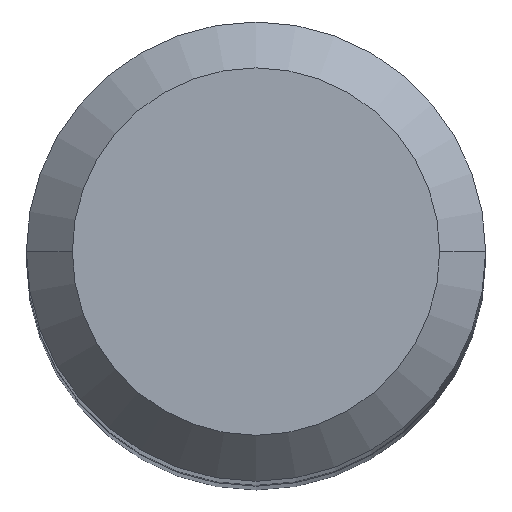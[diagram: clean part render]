
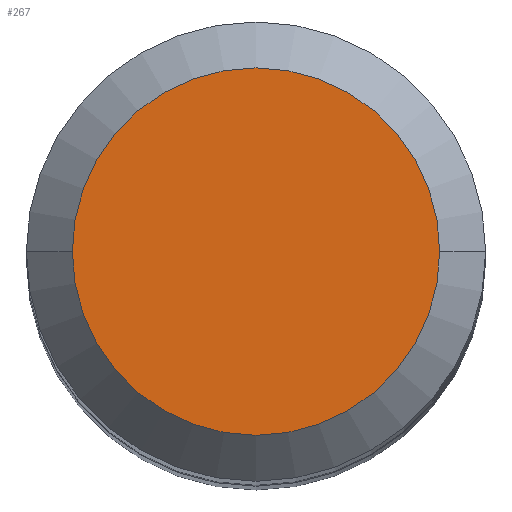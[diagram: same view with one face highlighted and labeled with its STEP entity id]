
A CAD part, top view. The second image highlights one B-rep face of the part: STEP entity #267.
In plain terms, the highlighted planar face has unit normal (0, 0, 1).
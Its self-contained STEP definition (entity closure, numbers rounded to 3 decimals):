
#34 = CIRCLE ( 'NONE', #248, 3.2 ) ;
#54 = CARTESIAN_POINT ( 'NONE',  ( 0., 3.2, 0. ) ) ;
#59 = DIRECTION ( 'NONE',  ( 1., 0., 0. ) ) ;
#89 = EDGE_CURVE ( 'NONE', #674, #98, #514, .T. ) ;
#98 = VERTEX_POINT ( 'NONE', #298 ) ;
#115 = EDGE_CURVE ( 'NONE', #98, #674, #34, .T. ) ;
#172 = DIRECTION ( 'NONE',  ( 0., 0., -1. ) ) ;
#175 = PLANE ( 'NONE',  #596 ) ;
#188 = ORIENTED_EDGE ( 'NONE', *, *, #115, .F. ) ;
#248 = AXIS2_PLACEMENT_3D ( 'NONE', #643, #589, #484 ) ;
#267 = ADVANCED_FACE ( 'NONE', ( #658 ), #175, .T. ) ;
#296 = ORIENTED_EDGE ( 'NONE', *, *, #89, .F. ) ;
#298 = CARTESIAN_POINT ( 'NONE',  ( -3.2, 0., 0. ) ) ;
#303 = CARTESIAN_POINT ( 'NONE',  ( 3.2, 0., 0. ) ) ;
#383 = CARTESIAN_POINT ( 'NONE',  ( 0., 0., 0. ) ) ;
#475 = DIRECTION ( 'NONE',  ( -1., 0., 0. ) ) ;
#479 = EDGE_LOOP ( 'NONE', ( #188, #296 ) ) ;
#484 = DIRECTION ( 'NONE',  ( -1., 0., 0. ) ) ;
#514 = CIRCLE ( 'NONE', #626, 3.2 ) ;
#542 = DIRECTION ( 'NONE',  ( 0., 0., 1. ) ) ;
#589 = DIRECTION ( 'NONE',  ( 0., 0., -1. ) ) ;
#596 = AXIS2_PLACEMENT_3D ( 'NONE', #54, #542, #59 ) ;
#626 = AXIS2_PLACEMENT_3D ( 'NONE', #383, #172, #475 ) ;
#643 = CARTESIAN_POINT ( 'NONE',  ( 0., 0., 0. ) ) ;
#658 = FACE_OUTER_BOUND ( 'NONE', #479, .T. ) ;
#674 = VERTEX_POINT ( 'NONE', #303 ) ;
